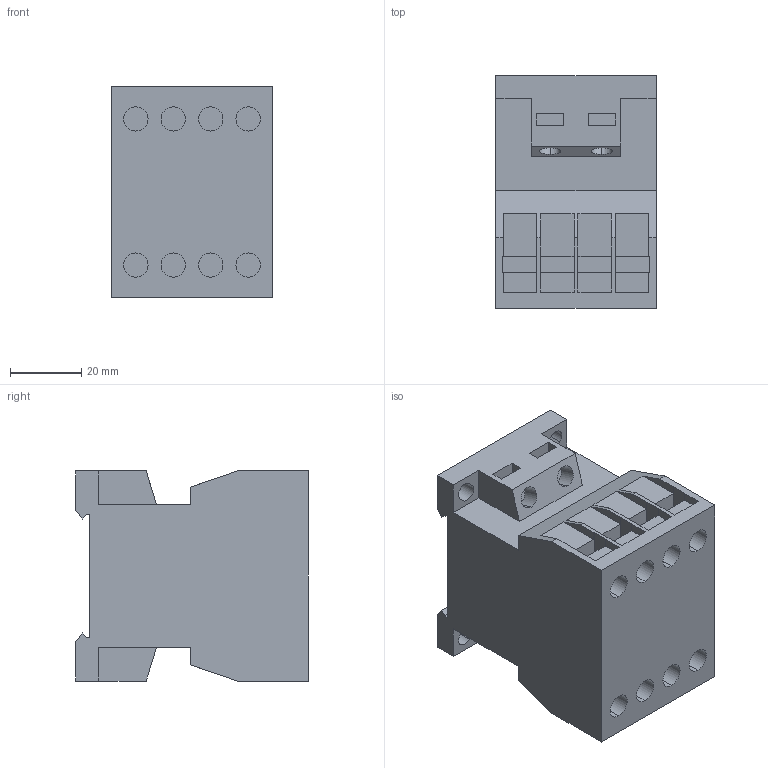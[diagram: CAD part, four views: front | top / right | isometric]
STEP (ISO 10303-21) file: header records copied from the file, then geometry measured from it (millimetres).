
FILE_DESCRIPTION (( 'STEP AP203' ), '1' );
FILE_NAME ('K3-07_10_14_18_22.STEP', '2009-07-13T07:23:57', ( 'Gutermuth' ), ( 'Benedict GmbH' ), 'SwSTEP 2.0', 'SolidWorks 2009', '' );
FILE_SCHEMA (( 'CONFIG_CONTROL_DESIGN' ));
Length unit declared in the file: millimetre
Products named in the file (1): K3-07_10_14_18_22
Bounding box: 45 x 65.3 x 59 mm (x, y, z)
Volume: 137772.7 mm3; surface area: 25229 mm2
Topology: 1 solids, 1 shells, 180 faces, 522 edges, 348 vertices
Faces by surface type: plane 148, cylinder 32
Entity records: 5995 total; most frequent: CARTESIAN_POINT 1051, ORIENTED_EDGE 1044, DIRECTION 948, EDGE_CURVE 522, LINE 458, VECTOR 458, VERTEX_POINT 348, AXIS2_PLACEMENT_3D 245
